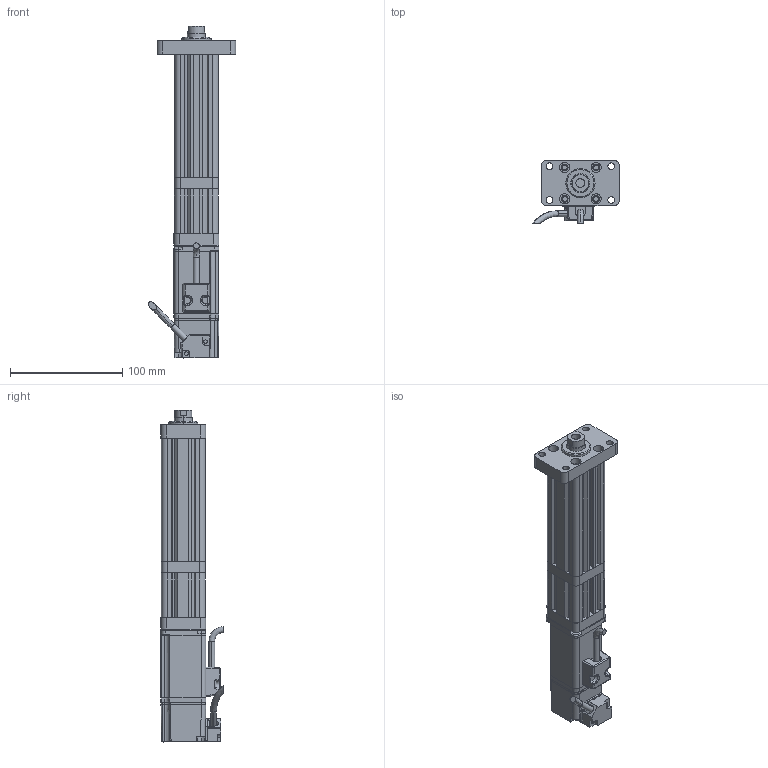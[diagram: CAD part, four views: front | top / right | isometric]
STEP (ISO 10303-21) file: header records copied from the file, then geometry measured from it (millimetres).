
FILE_DESCRIPTION (( 'STEP AP214' ), '1' );
FILE_NAME ('039-S50-D02-A-M3-C2-2.STEP', '2021-03-02T05:30:46', ( '' ), ( '' ), 'SwSTEP 2.0', 'SolidWorks 2018', '' );
FILE_SCHEMA (( 'AUTOMOTIVE_DESIGN' ));
Length unit declared in the file: millimetre
Products named in the file (8): CMC039-FL1; CMC039-DJZ; CMC039-ZLLJB; CMC039-DT; 039-S50-D02-A-M3-C2-2; CMC039-AZB; ECMA-CX0401ES-40框號系列機種-100W低慣量系列; CMC039-GT
Assembly tree (7 placements, depth 2):
  039-S50-D02-A-M3-C2-2
    CMC039-GT
    CMC039-DT
    CMC039-ZLLJB
    CMC039-DJZ
    ECMA-CX0401ES-40框號系列機種-100W低慣量系列
    CMC039-AZB
    CMC039-FL1
Bounding box: 77.84 x 55.39 x 295.6 mm (x, y, z)
Volume: 354800.9 mm3; surface area: 105087.3 mm2
Topology: 7 solids, 15 shells, 713 faces, 1880 edges, 1181 vertices
Faces by surface type: cylinder 298, plane 292, bspline 84, cone 39
Entity records: 28208 total; most frequent: CARTESIAN_POINT 11266, ORIENTED_EDGE 3694, DIRECTION 3033, EDGE_CURVE 1847, VERTEX_POINT 1181, AXIS2_PLACEMENT_3D 1035, VECTOR 963, LINE 963
